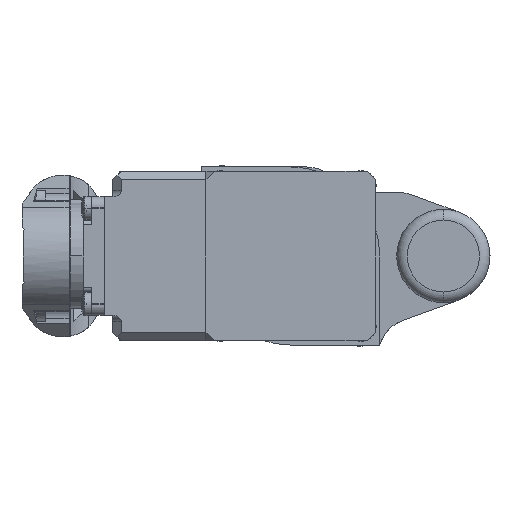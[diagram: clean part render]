
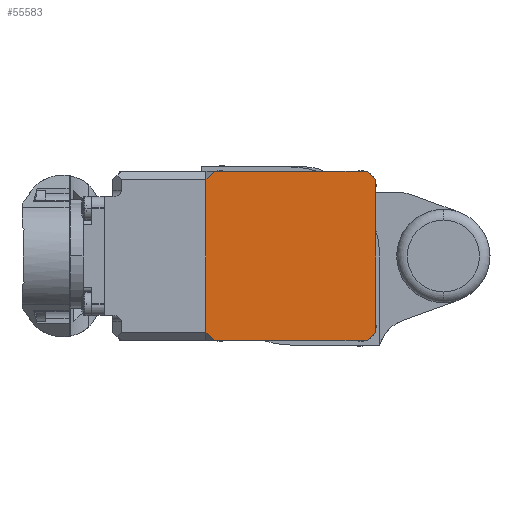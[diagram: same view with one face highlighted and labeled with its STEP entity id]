
A CAD part, left-side view. The second image highlights one B-rep face of the part: STEP entity #55583.
In plain terms, the highlighted planar face has unit normal (-1, 0, 0).
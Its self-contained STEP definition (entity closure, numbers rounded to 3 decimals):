
#780 = LINE ( 'NONE', #50829, #15649 ) ;
#859 = VERTEX_POINT ( 'NONE', #3717 ) ;
#1614 = DIRECTION ( 'NONE',  ( 0., -1., 0. ) ) ;
#1971 = VERTEX_POINT ( 'NONE', #66505 ) ;
#2185 = VERTEX_POINT ( 'NONE', #14150 ) ;
#3717 = CARTESIAN_POINT ( 'NONE',  ( -113., -18., 20. ) ) ;
#6794 = LINE ( 'NONE', #33371, #36522 ) ;
#7851 = ORIENTED_EDGE ( 'NONE', *, *, #64714, .T. ) ;
#8117 = AXIS2_PLACEMENT_3D ( 'NONE', #33826, #45067, #11590 ) ;
#8209 = VERTEX_POINT ( 'NONE', #55491 ) ;
#8435 = VECTOR ( 'NONE', #34469, 1000. ) ;
#10901 = EDGE_CURVE ( 'NONE', #54282, #859, #780, .T. ) ;
#11590 = DIRECTION ( 'NONE',  ( 0., 0., 1. ) ) ;
#11818 = ORIENTED_EDGE ( 'NONE', *, *, #66845, .T. ) ;
#12260 = VERTEX_POINT ( 'NONE', #33475 ) ;
#12600 = VECTOR ( 'NONE', #51286, 1000. ) ;
#14150 = CARTESIAN_POINT ( 'NONE',  ( -113., 20., 18. ) ) ;
#14181 = EDGE_CURVE ( 'NONE', #62786, #2185, #51135, .T. ) ;
#15649 = VECTOR ( 'NONE', #61760, 1000. ) ;
#22628 = PLANE ( 'NONE',  #8117 ) ;
#24879 = EDGE_CURVE ( 'NONE', #859, #62786, #66031, .T. ) ;
#25126 = ORIENTED_EDGE ( 'NONE', *, *, #24879, .T. ) ;
#28357 = LINE ( 'NONE', #68433, #56224 ) ;
#29512 = DIRECTION ( 'NONE',  ( 0., -0.707, -0.707 ) ) ;
#31774 = ORIENTED_EDGE ( 'NONE', *, *, #67404, .T. ) ;
#32779 = FACE_OUTER_BOUND ( 'NONE', #59789, .T. ) ;
#33371 = CARTESIAN_POINT ( 'NONE',  ( -113., -20., -18. ) ) ;
#33475 = CARTESIAN_POINT ( 'NONE',  ( -113., -18., -20. ) ) ;
#33826 = CARTESIAN_POINT ( 'NONE',  ( -113., 0., 0. ) ) ;
#34469 = DIRECTION ( 'NONE',  ( 0., 1., 0. ) ) ;
#36522 = VECTOR ( 'NONE', #44613, 1000. ) ;
#38610 = EDGE_CURVE ( 'NONE', #2185, #8209, #40677, .T. ) ;
#39270 = VECTOR ( 'NONE', #29512, 1000. ) ;
#39329 = ORIENTED_EDGE ( 'NONE', *, *, #10901, .T. ) ;
#40677 = LINE ( 'NONE', #70313, #68552 ) ;
#44613 = DIRECTION ( 'NONE',  ( 0., 0., 1. ) ) ;
#44828 = ORIENTED_EDGE ( 'NONE', *, *, #60586, .T. ) ;
#45067 = DIRECTION ( 'NONE',  ( -1., 0., 0. ) ) ;
#45690 = CARTESIAN_POINT ( 'NONE',  ( -113., -18., -20. ) ) ;
#45711 = VERTEX_POINT ( 'NONE', #63856 ) ;
#49410 = VECTOR ( 'NONE', #64433, 1000. ) ;
#50829 = CARTESIAN_POINT ( 'NONE',  ( -113., -20., 18. ) ) ;
#51135 = LINE ( 'NONE', #53238, #49410 ) ;
#51286 = DIRECTION ( 'NONE',  ( 0., -0.707, 0.707 ) ) ;
#53238 = CARTESIAN_POINT ( 'NONE',  ( -113., 18., 20. ) ) ;
#53939 = CARTESIAN_POINT ( 'NONE',  ( -113., -20., 18. ) ) ;
#54282 = VERTEX_POINT ( 'NONE', #53939 ) ;
#55381 = LINE ( 'NONE', #45690, #12600 ) ;
#55491 = CARTESIAN_POINT ( 'NONE',  ( -113., 20., -18. ) ) ;
#55583 = ADVANCED_FACE ( 'NONE', ( #32779 ), #22628, .T. ) ;
#56224 = VECTOR ( 'NONE', #1614, 1000. ) ;
#56859 = CARTESIAN_POINT ( 'NONE',  ( -113., -18., 20. ) ) ;
#59293 = LINE ( 'NONE', #68468, #39270 ) ;
#59371 = DIRECTION ( 'NONE',  ( 0., 0., -1. ) ) ;
#59474 = CARTESIAN_POINT ( 'NONE',  ( -113., 18., 20. ) ) ;
#59789 = EDGE_LOOP ( 'NONE', ( #7851, #31774, #39329, #25126, #65148, #69346, #11818, #44828 ) ) ;
#60586 = EDGE_CURVE ( 'NONE', #45711, #12260, #28357, .T. ) ;
#61760 = DIRECTION ( 'NONE',  ( 0., 0.707, 0.707 ) ) ;
#62786 = VERTEX_POINT ( 'NONE', #59474 ) ;
#63856 = CARTESIAN_POINT ( 'NONE',  ( -113., 18., -20. ) ) ;
#64433 = DIRECTION ( 'NONE',  ( 0., 0.707, -0.707 ) ) ;
#64714 = EDGE_CURVE ( 'NONE', #12260, #1971, #55381, .T. ) ;
#65148 = ORIENTED_EDGE ( 'NONE', *, *, #14181, .T. ) ;
#66031 = LINE ( 'NONE', #56859, #8435 ) ;
#66505 = CARTESIAN_POINT ( 'NONE',  ( -113., -20., -18. ) ) ;
#66845 = EDGE_CURVE ( 'NONE', #8209, #45711, #59293, .T. ) ;
#67404 = EDGE_CURVE ( 'NONE', #1971, #54282, #6794, .T. ) ;
#68433 = CARTESIAN_POINT ( 'NONE',  ( -113., 18., -20. ) ) ;
#68468 = CARTESIAN_POINT ( 'NONE',  ( -113., 20., -18. ) ) ;
#68552 = VECTOR ( 'NONE', #59371, 1000. ) ;
#69346 = ORIENTED_EDGE ( 'NONE', *, *, #38610, .T. ) ;
#70313 = CARTESIAN_POINT ( 'NONE',  ( -113., 20., 18. ) ) ;
